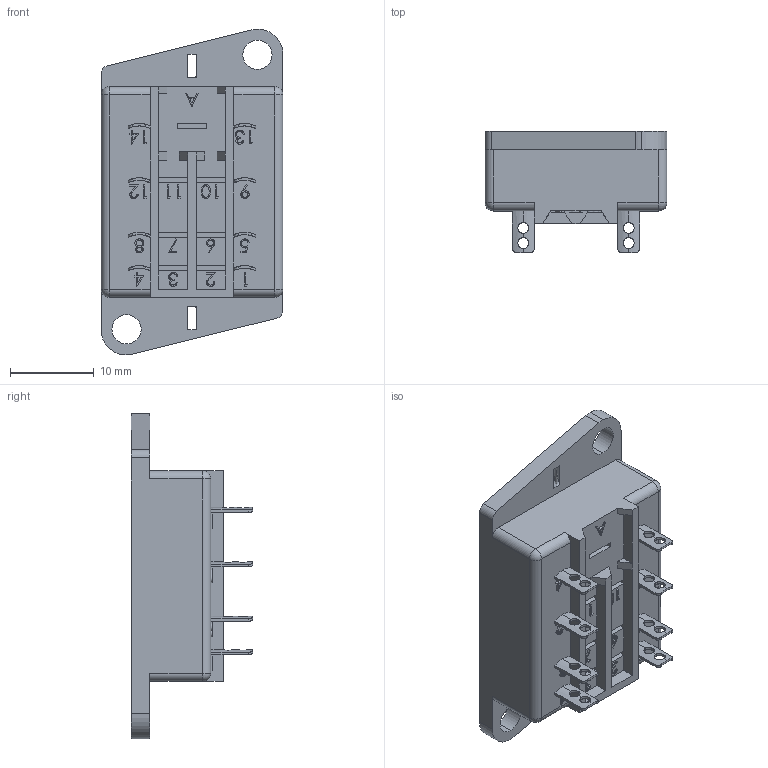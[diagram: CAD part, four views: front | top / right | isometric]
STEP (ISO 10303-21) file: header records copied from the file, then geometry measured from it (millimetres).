
FILE_DESCRIPTION (( 'STEP AP203' ), '1' );
FILE_NAME ('MSO2TF.STEP', '2019-09-12T16:57:45', ( '' ), ( '' ), 'SwSTEP 2.0', 'SolidWorks 2012', '' );
FILE_SCHEMA (( 'CONFIG_CONTROL_DESIGN' ));
Length unit declared in the file: millimetre
Products named in the file (1): MSO2TF
Bounding box: 21.75 x 14.5 x 38.92 mm (x, y, z)
Volume: 5197.5 mm3; surface area: 3564.3 mm2
Topology: 1 solids, 1 shells, 526 faces, 1512 edges, 996 vertices
Faces by surface type: plane 323, cylinder 101, bspline 98, sphere 4
Entity records: 22987 total; most frequent: CARTESIAN_POINT 9941, ORIENTED_EDGE 3016, DIRECTION 2136, EDGE_CURVE 1508, VECTOR 1050, LINE 1050, VERTEX_POINT 996, EDGE_LOOP 578
